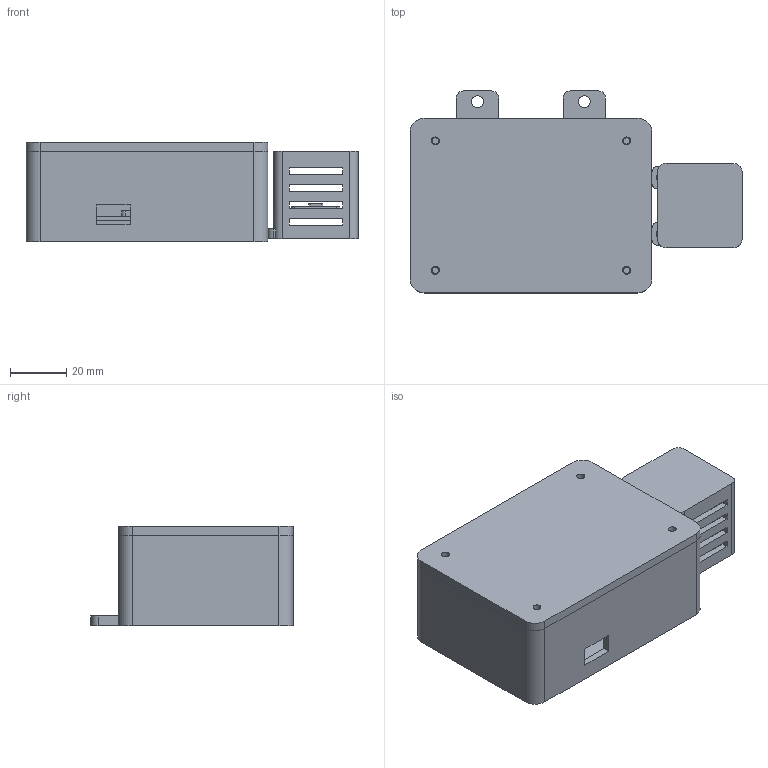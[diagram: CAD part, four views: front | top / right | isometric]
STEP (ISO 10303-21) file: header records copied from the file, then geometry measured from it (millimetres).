
FILE_DESCRIPTION(('Open CASCADE Model'),'2;1');
FILE_NAME('Open CASCADE Shape Model','2026-11-15T16:08:41',('Author'),( 'Open CASCADE'),'Open CASCADE STEP processor 7.8','Open CASCADE 7.8' ,'Unknown');
FILE_SCHEMA(('AUTOMOTIVE_DESIGN { 1 0 10303 214 1 1 1 1 }'));
Length unit declared in the file: millimetre
Products named in the file (6): KokoShield_Field_Node; Enclosure_Base; Enclosure_Lid; Ventilated_Sensor_Hood; Controller_Size_Envelope; Sensor_Size_Envelope
Assembly tree (5 placements, depth 2):
  KokoShield_Field_Node
    Enclosure_Base
    Enclosure_Lid
    Ventilated_Sensor_Hood
    Controller_Size_Envelope
    Sensor_Size_Envelope
Bounding box: 118 x 71.8 x 35.2 mm (x, y, z)
Volume: 69868.7 mm3; surface area: 54891.2 mm2
Topology: 5 solids, 5 shells, 212 faces, 582 edges, 388 vertices
Faces by surface type: plane 142, cylinder 70
Full cylindrical faces by diameter (mm): 2.3 x4, 2.8 x4, 4.2 x2, 9 x4
Entity records: 14417 total; most frequent: CARTESIAN_POINT 3098, DIRECTION 1930, ORIENTED_EDGE 1164, PCURVE 1164, DEFINITIONAL_REPRESENTATION 1164, LINE 1132, VECTOR 1132, EDGE_CURVE 582
